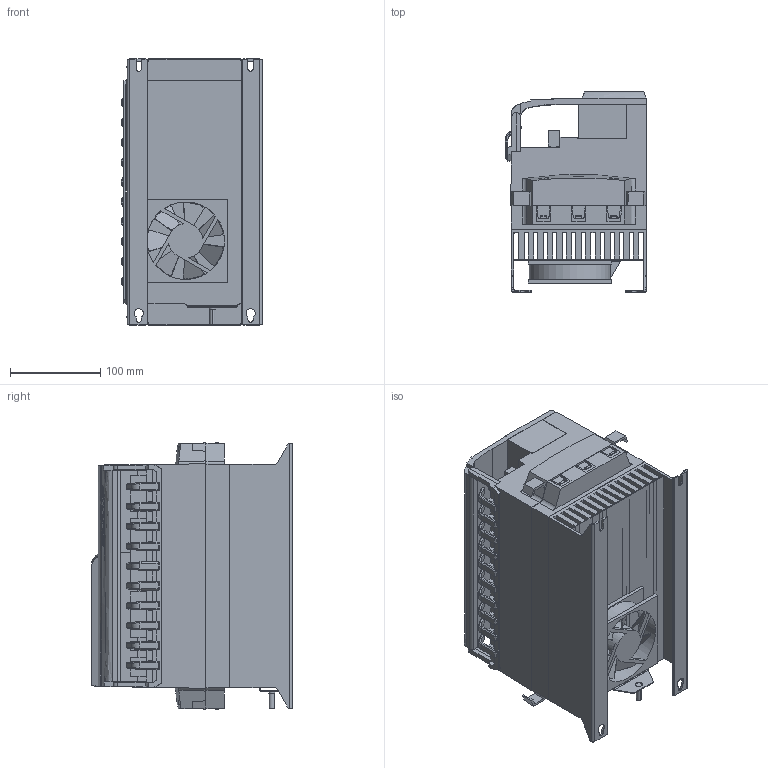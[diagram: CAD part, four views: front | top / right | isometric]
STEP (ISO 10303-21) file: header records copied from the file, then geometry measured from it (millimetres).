
FILE_DESCRIPTION (( 'STEP AP214' ), '1' );
FILE_NAME ('EMX3 G1 General Assembly Simplified (with fan).STEP', '2013-01-14T02:23:25', ( '' ), ( '' ), 'SwSTEP 2.0', 'SolidWorks 2012', '' );
FILE_SCHEMA (( 'AUTOMOTIVE_DESIGN' ));
Length unit declared in the file: millimetre
Products named in the file (1): EMX3 G1 General Assembly Simplified (with fan)
Bounding box: 156.79 x 222.35 x 295.4 mm (x, y, z)
Volume: 5095068.4 mm3; surface area: 1011503.1 mm2
Topology: 17 solids, 17 shells, 2248 faces, 6062 edges, 3924 vertices
Faces by surface type: plane 1347, bspline 475, cylinder 272, cone 99, sphere 44, torus 11
Entity records: 113179 total; most frequent: CARTESIAN_POINT 36541, ORIENTED_EDGE 12124, DIRECTION 8391, EDGE_CURVE 6062, VERTEX_POINT 3924, LINE 3739, VECTOR 3739, EDGE_LOOP 2376
